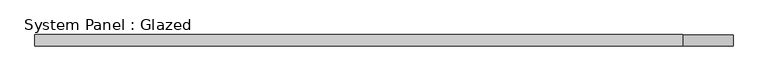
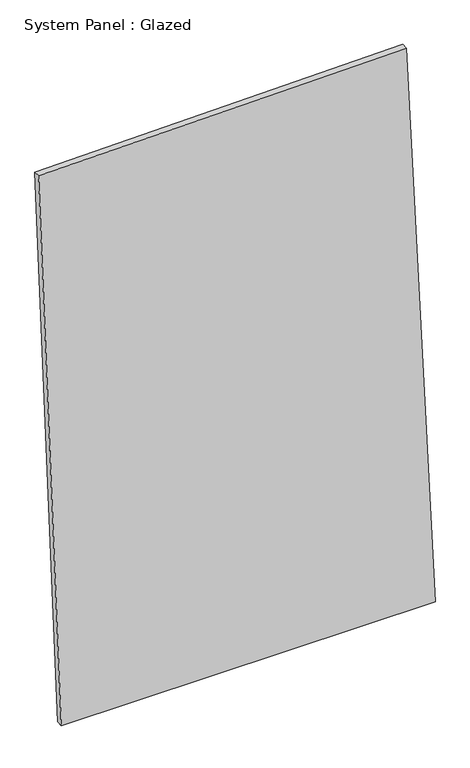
"""IFC4 building model written with IfcOpenShell, lengths in millimetres: plate geometry, System Panel : Glazed."""

import ifcopenshell
import ifcopenshell.guid

model = None  # the IFC model being written
_history = None  # IfcOwnerHistory: only IFC2X3 demands one
_inside = {}  # id of a spatial element -> (the spatial element, [elements in it])
_under = {}  # id of a project, library or spatial element -> (it, [spatial elements below it])
_declared = {}  # id of a project -> (the project, [libraries it declares])
_typed = {}  # id of a type object -> (the type object, [elements of that type])
_made_of = {}  # id of a material, layer set ... -> (it, [elements and type objects made of it])


def new_model(schema):
    """Start an empty IFC model of exactly this schema.

    Asked for "IFC4X3", IfcOpenShell would pick the latest addendum, in which some entities
    have other attributes; the version numbers below select the first issue.
    IFC2X3 requires an IfcOwnerHistory on every rooted entity: one is made here for all.
    """
    global model, _history
    if schema == "IFC4X3":
        model = ifcopenshell.file(schema_version=(4, 3, 0, 0))
    else:
        model = ifcopenshell.file(schema=schema)
    _inside.clear()
    _under.clear()
    _declared.clear()
    _typed.clear()
    _made_of.clear()
    _history = None
    if model.schema == "IFC2X3":
        org = make("IfcOrganization", Name="unknown")
        user = make(
            "IfcPersonAndOrganization",
            ThePerson=make("IfcPerson", FamilyName="unknown"),
            TheOrganization=org,
        )
        app = make(
            "IfcApplication",
            ApplicationDeveloper=org,
            Version="unknown",
            ApplicationFullName="unknown",
            ApplicationIdentifier="unknown",
        )
        _history = make(
            "IfcOwnerHistory",
            OwningUser=user,
            OwningApplication=app,
            ChangeAction="ADDED",
            CreationDate=0,
        )
    return model


def make(cls, **values):
    """One entity of the class cls with the attributes given. An attribute that is None is left unset."""
    return model.create_entity(
        cls, **{name: value for name, value in values.items() if value is not None}
    )


def rooted(cls, **values):
    """An entity with a GlobalId (a new one), such as an element, a storey or a relation."""
    return make(cls, GlobalId=ifcopenshell.guid.new(), OwnerHistory=_history, **values)


def si_unit(unit_type, name, prefix=None):
    """IfcSIUnit, for example si_unit("LENGTHUNIT", "METRE", prefix="MILLI")."""
    return make("IfcSIUnit", UnitType=unit_type, Prefix=prefix, Name=name)


def assignment(units):
    """IfcUnitAssignment: the units of a project."""
    return None if units is None else make("IfcUnitAssignment", Units=units)


def point(xyz):
    """IfcCartesianPoint."""
    return None if xyz is None else make("IfcCartesianPoint", Coordinates=xyz)


def direction(xyz):
    """IfcDirection."""
    return None if xyz is None else make("IfcDirection", DirectionRatios=xyz)


def frame(location, z_axis=None, x_axis=None):
    """IfcAxis2Placement3D, a coordinate frame: its origin and axes. An axis left out is left unset."""
    return make(
        "IfcAxis2Placement3D",
        Location=point(location),
        Axis=direction(z_axis),
        RefDirection=direction(x_axis),
    )


def origin():
    """The frame at (0, 0, 0) with its axes left unset."""
    return frame((0.0, 0.0, 0.0))


def place(relative_to, where):
    """IfcLocalPlacement: puts the frame where relative to a parent placement (None: the world)."""
    return make(
        "IfcLocalPlacement", PlacementRelTo=relative_to, RelativePlacement=where
    )


def context(
    kind, dimensions, precision=None, world=None, true_north=None, identifier=None
):
    """IfcGeometricRepresentationContext, for example the 3D "Model" context."""
    return make(
        "IfcGeometricRepresentationContext",
        ContextIdentifier=identifier,
        ContextType=kind,
        CoordinateSpaceDimension=dimensions,
        Precision=precision,
        WorldCoordinateSystem=world,
        TrueNorth=true_north,
    )


def project(units=None, contexts=None):
    """IfcProject with its units and contexts."""
    return rooted(
        "IfcProject",
        Name="project",
        RepresentationContexts=contexts,
        UnitsInContext=assignment(units),
    )


def spatial(cls, under=None, at=None, **own):
    """A site, building, storey or space (cls), placed at a placement, below another one or the project."""
    s = rooted(cls, ObjectPlacement=at, **own)
    if under is not None:
        _under.setdefault(under.id(), (under, []))[1].append(s)
    return s


def polyline(points):
    """IfcPolyline through the points."""
    return make("IfcPolyline", Points=[point(p) for p in points])


def outline(outer, holes=None, kind="AREA"):
    """IfcArbitraryClosedProfileDef: a profile drawn as a closed curve; with holes, ...WithVoids."""
    if holes is None:
        return make("IfcArbitraryClosedProfileDef", ProfileType=kind, OuterCurve=outer)
    return make(
        "IfcArbitraryProfileDefWithVoids",
        ProfileType=kind,
        OuterCurve=outer,
        InnerCurves=holes,
    )


def extrude(swept, where, along, depth):
    """IfcExtrudedAreaSolid: the profile swept, set in the frame where, extruded along a direction by depth."""
    return make(
        "IfcExtrudedAreaSolid",
        SweptArea=swept,
        Position=where,
        ExtrudedDirection=direction(along),
        Depth=depth,
    )


def shape(context_of_items, identifier, shape_type, items):
    """IfcShapeRepresentation: the items that make up one representation, for example the "Body"."""
    return make(
        "IfcShapeRepresentation",
        ContextOfItems=context_of_items,
        RepresentationIdentifier=identifier,
        RepresentationType=shape_type,
        Items=items,
    )


def source(mapping_origin, context_of_items, identifier, shape_type, items):
    """IfcRepresentationMap: a shape defined once, which mapped items show again and again."""
    return make(
        "IfcRepresentationMap",
        MappingOrigin=mapping_origin,
        MappedRepresentation=shape(context_of_items, identifier, shape_type, items),
    )


def transform(
    local_origin,
    x_axis=None,
    y_axis=None,
    z_axis=None,
    scale=None,
    scale2=None,
    scale3=None,
    uniform=True,
):
    """IfcCartesianTransformationOperator3D, or its non-uniform kind. x_axis, y_axis, z_axis: its Axis1, 2, 3."""
    if uniform:
        return make(
            "IfcCartesianTransformationOperator3D",
            Axis1=direction(x_axis),
            Axis2=direction(y_axis),
            LocalOrigin=point(local_origin),
            Scale=scale,
            Axis3=direction(z_axis),
        )
    return make(
        "IfcCartesianTransformationOperator3DnonUniform",
        Axis1=direction(x_axis),
        Axis2=direction(y_axis),
        LocalOrigin=point(local_origin),
        Scale=scale,
        Axis3=direction(z_axis),
        Scale2=scale2,
        Scale3=scale3,
    )


def mapped(mapping_source, mapping_target):
    """IfcMappedItem: shows the shape of a source again, moved by a transform."""
    return make(
        "IfcMappedItem", MappingSource=mapping_source, MappingTarget=mapping_target
    )


def made_of(thing, what):
    """Note that an element or type object is made of a material, layer set ...; save() writes the relation."""
    if what is not None:
        _made_of.setdefault(what.id(), (what, []))[1].append(thing)
    return thing


def element(
    cls,
    number,
    at=None,
    inside=None,
    cuts=None,
    type_object=None,
    material=None,
    context=None,
    identifier="Body",
    shape_type=None,
    held_by="IfcProductDefinitionShape",
    body=None,
    shapes=None,
    **own,
):
    """One element of the class cls, such as IfcWall. Its Tag is "e" and its number.

    at: its placement. inside: the storey or other place that contains it. cuts: it is an
    opening in that element (IfcRelVoidsElement). A single representation is given by context,
    identifier, shape_type and body (its items); several are given by shapes. held_by: the class
    of the entity that holds the representations. save() writes the other relations.
    """
    e = rooted(cls, Tag="e%d" % number, ObjectPlacement=at, **own)
    if body is not None:
        shapes = [shape(context, identifier, shape_type, body)]
    if shapes is not None:
        e.Representation = make(held_by, Representations=shapes)
    if inside is not None:
        _inside.setdefault(inside.id(), (inside, []))[1].append(e)
    if cuts is not None:
        rooted(
            "IfcRelVoidsElement", RelatingBuildingElement=cuts, RelatedOpeningElement=e
        )
    if type_object is not None:
        _typed.setdefault(type_object.id(), (type_object, []))[1].append(e)
    return made_of(e, material)


def aggregate(whole, parts):
    """IfcRelAggregates: a whole, such as a stair, and the parts it consists of."""
    return rooted("IfcRelAggregates", RelatingObject=whole, RelatedObjects=parts)


def save(model, path):
    """Write the relations noted so far, then the file.

    IfcRelAggregates (storeys below a building ...), IfcRelContainedInSpatialStructure (elements
    in a storey), IfcRelDefinesByType, IfcRelAssociatesMaterial and IfcRelDeclares: one each for
    every whole, place, type object, material and project.
    """
    for whole, parts in _under.values():
        aggregate(whole, parts)
    for where, things in _inside.values():
        rooted(
            "IfcRelContainedInSpatialStructure",
            RelatedElements=things,
            RelatingStructure=where,
        )
    for kind, things in _typed.values():
        rooted("IfcRelDefinesByType", RelatedObjects=things, RelatingType=kind)
    for what, things in _made_of.values():
        rooted("IfcRelAssociatesMaterial", RelatedObjects=things, RelatingMaterial=what)
    for by, libraries in _declared.values():
        rooted("IfcRelDeclares", RelatingContext=by, RelatedDefinitions=libraries)
    model.write(path)


def system_panel_glazed_b6fc6198(model_context):
    return source(origin(), model_context, "Body", "SweptSolid", [
        extrude(outline(polyline([(0.0, -693.8057486), (0.0, 783.4305807), (2349.8850966, 670.0608549), (2325.9848878, -783.4305807), (0.0, -693.8057486)])), frame((0.0, -49.5, 0.0), z_axis=(0.0, 1.0, 0.0), x_axis=(0.0, 0.0, 1.0)), (0.0, 0.0, 1.0), 25.0),
    ])


if __name__ == "__main__":
    model = new_model("IFC4")
    model_context = context("Model", 3, world=origin())
    ifc_project = project(units=[si_unit("LENGTHUNIT", "METRE", prefix="MILLI")], contexts=[model_context])
    site = spatial("IfcSite", under=ifc_project)
    building = spatial("IfcBuilding", under=site)
    placement = place(None, origin())
    system_panel_glazed_shape = system_panel_glazed_b6fc6198(model_context)
    element("IfcPlate", 1, ObjectType="System Panel : Glazed", at=placement, inside=building, context=model_context, shape_type="MappedRepresentation", body=[
        mapped(system_panel_glazed_shape, transform((0.0, 0.0, 0.0), x_axis=(1.0, 0.0, 0.0), y_axis=(0.0, 1.0, 0.0), z_axis=(0.0, 0.0, 1.0))),
    ])
    save(model, "model.ifc")
